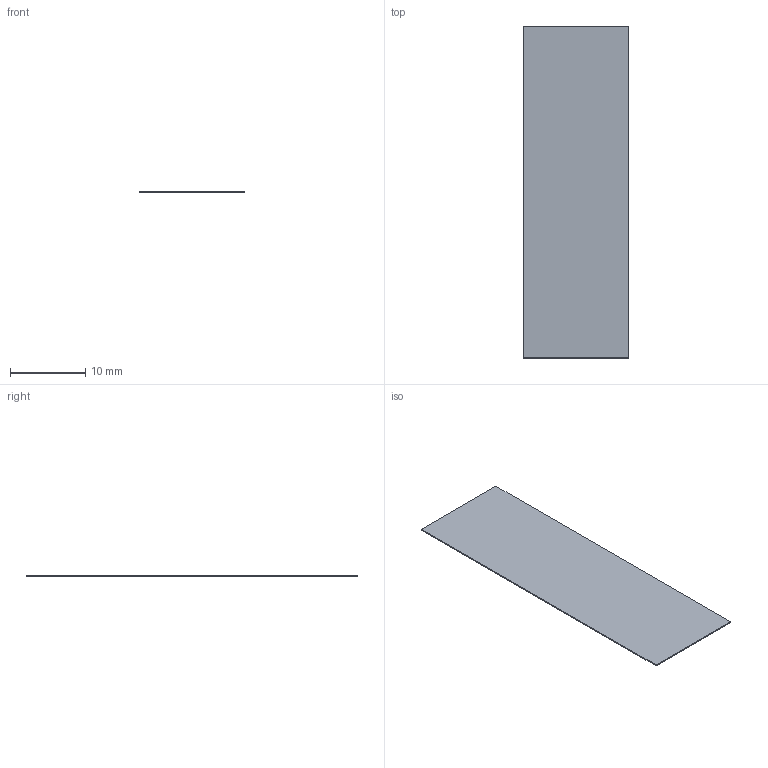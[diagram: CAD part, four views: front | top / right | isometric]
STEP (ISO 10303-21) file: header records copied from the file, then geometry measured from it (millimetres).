
FILE_DESCRIPTION(('Open CASCADE Model'),'2;1');
FILE_NAME('Open CASCADE Shape Model','2026-10-04T01:02:32',('Author'),( 'Open CASCADE'),'Open CASCADE STEP processor 8.0','Open CASCADE 8.0' ,'Unknown');
FILE_SCHEMA(('AUTOMOTIVE_DESIGN { 1 0 10303 214 1 1 1 1 }'));
Length unit declared in the file: millimetre
Products named in the file (1): Open CASCADE STEP translator 8.0 280
Bounding box: 14 x 44 x 0.15 mm (x, y, z)
Volume: 92.4 mm3; surface area: 1249.4 mm2
Topology: 1 solids, 1 shells, 6 faces, 12 edges, 8 vertices
Faces by surface type: plane 6
Entity records: 322 total; most frequent: CARTESIAN_POINT 51, DIRECTION 50, LINE 36, VECTOR 36, ORIENTED_EDGE 24, PCURVE 24, DEFINITIONAL_REPRESENTATION 24, EDGE_CURVE 12
